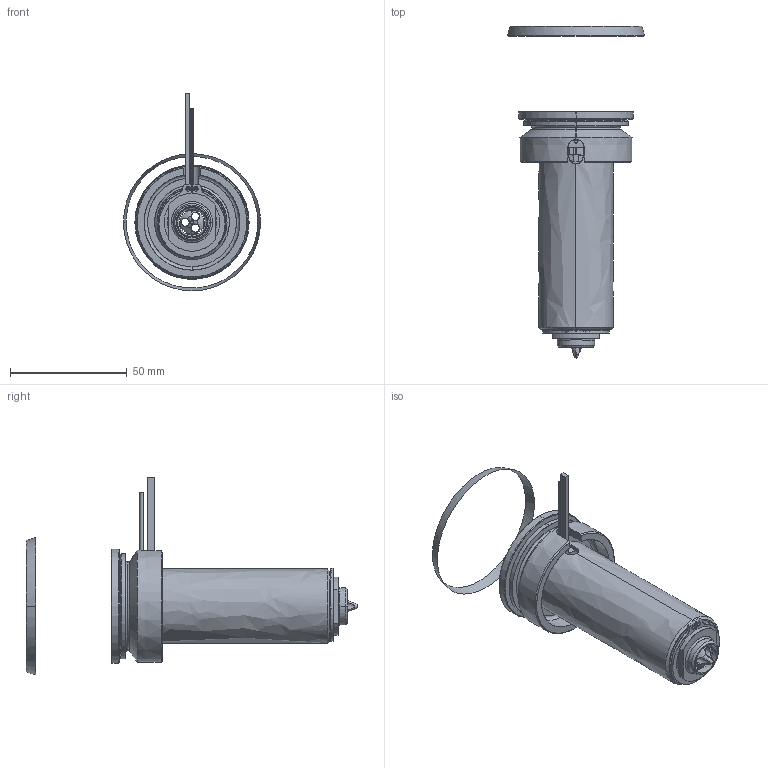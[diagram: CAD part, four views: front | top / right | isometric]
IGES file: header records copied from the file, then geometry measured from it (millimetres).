
Start section: SolidWorks IGES file using analytic representation for surfaces
Global section: file name: C:\Documents and Settings\ws-20\Desktop\TEM\UGEP5002-S-A-0 [Øf-1.18 ØC-12].IGS; native system: SolidWorks 2012; preprocessor: SolidWorks 2012; author: ws-20; date: 120426.100002; units: millimetre
Bounding box: 58.79 x 142.24 x 84.69 mm (x, y, z)
Surface area: 41607.2 mm2 (no closed solid volume)
Topology: 0 solids, 0 shells, 125 faces, 2407 edges, 2407 vertices
Faces by surface type: revolution 81, bspline 44
